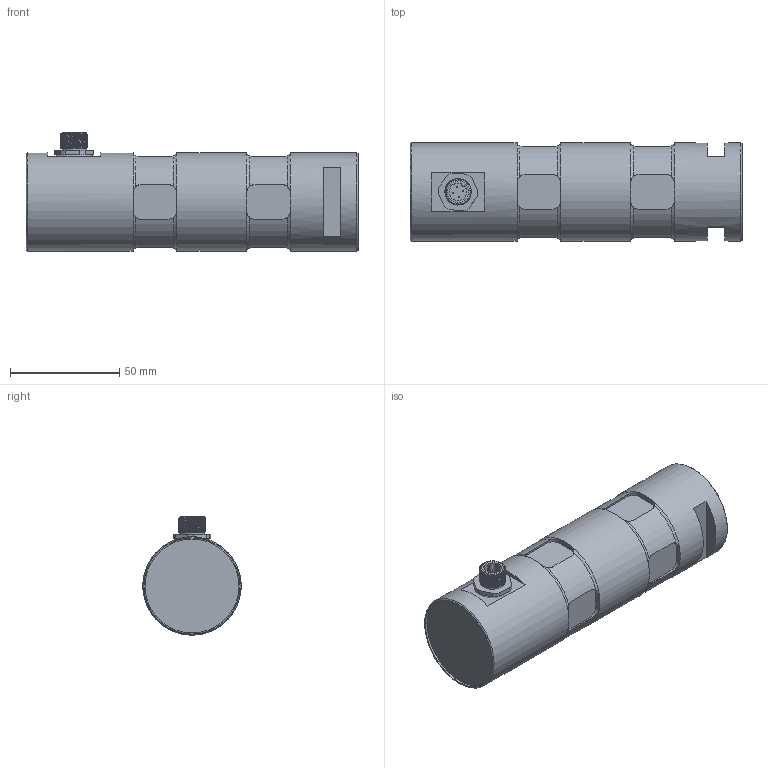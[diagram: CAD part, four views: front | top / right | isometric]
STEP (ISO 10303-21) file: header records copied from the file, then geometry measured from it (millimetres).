
FILE_DESCRIPTION(/* description */ ('Alibre Inc.'),/* implementation_level */ '2;1');
FILE_NAME(/* name */ 'export1',/* time_stamp */ '2018-05-22T14:03:52+02:00',/* author */ (''),/* organization */ (''),/* preprocessor_version */ 'ST-DEVELOPER v17',/* originating_system */ 'Alibre',/* authorisation */ '');
FILE_SCHEMA (('CONFIG_CONTROL_DESIGN'));
Length unit declared in the file: millimetre
Products named in the file (6): ID_1; ID_2; ID_3; ID_4
Bounding box: 152 x 45 x 54.12 mm (x, y, z)
Volume: 227966.2 mm3; surface area: 30307.1 mm2
Topology: 8 solids, 8 shells, 219 faces, 509 edges, 314 vertices
Faces by surface type: plane 93, cylinder 79, bspline 23, torus 17, cone 7
Full cylindrical faces by diameter (mm): 0.5 x8, 8 x2, 10 x3, 11.5 x1, 13 x1, 14.376 x1, 43 x2, 45 x3
Entity records: 19199 total; most frequent: CARTESIAN_POINT 14517, ORIENTED_EDGE 946, DIRECTION 611, EDGE_CURVE 468, VERTEX_POINT 304, FACE_BOUND 265, EDGE_LOOP 263, AXIS2_PLACEMENT_3D 263
